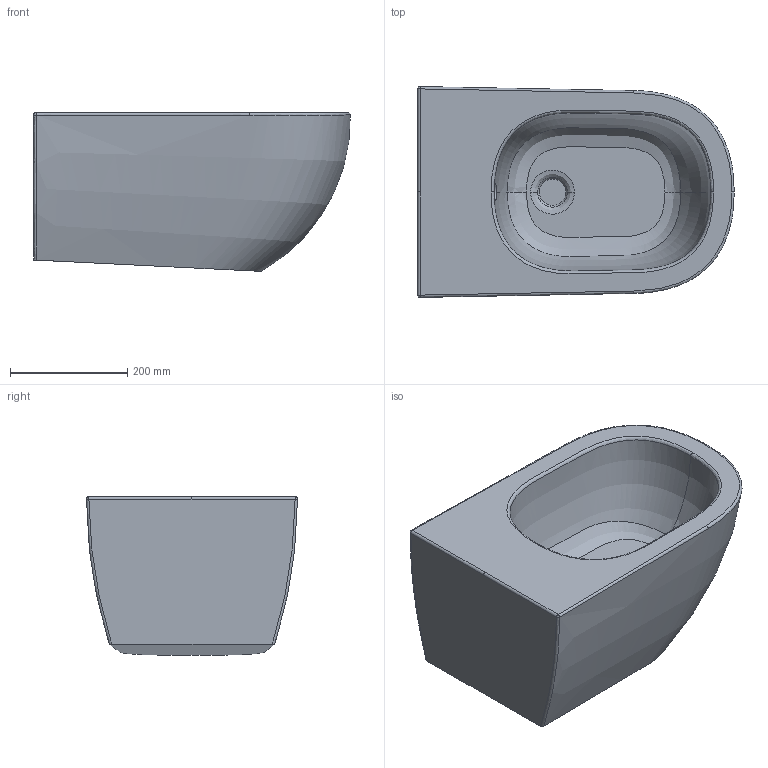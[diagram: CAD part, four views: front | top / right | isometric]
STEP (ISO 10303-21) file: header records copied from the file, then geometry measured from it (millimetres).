
FILE_DESCRIPTION(/* description */ (''),/* implementation_level */ '2;1');
FILE_NAME(/* name */ 'QUIDBI~1',/* time_stamp */ '2019-06-24T10:00:43+02:00',/* author */ (''),/* organization */ (''),/* preprocessor_version */ 'ST-DEVELOPER v16.5',/* originating_system */ '',/* authorisation */ '');
FILE_SCHEMA (('AUTOMOTIVE_DESIGN'));
Length unit declared in the file: millimetre
Products named in the file (1): Document
Bounding box: 540.2 x 359.88 x 270.8 mm (x, y, z)
Volume: 27166941.2 mm3; surface area: 803465.1 mm2
Topology: 1 solids, 1 shells, 32 faces, 78 edges, 56 vertices
Faces by surface type: bspline 27, plane 5
Entity records: 7608 total; most frequent: CARTESIAN_POINT 7169, ORIENTED_EDGE 144, EDGE_CURVE 72, VERTEX_POINT 44, EDGE_LOOP 34, ADVANCED_FACE 32, FACE_OUTER_BOUND 32, B_SPLINE_CURVE_WITH_KNOTS 20
